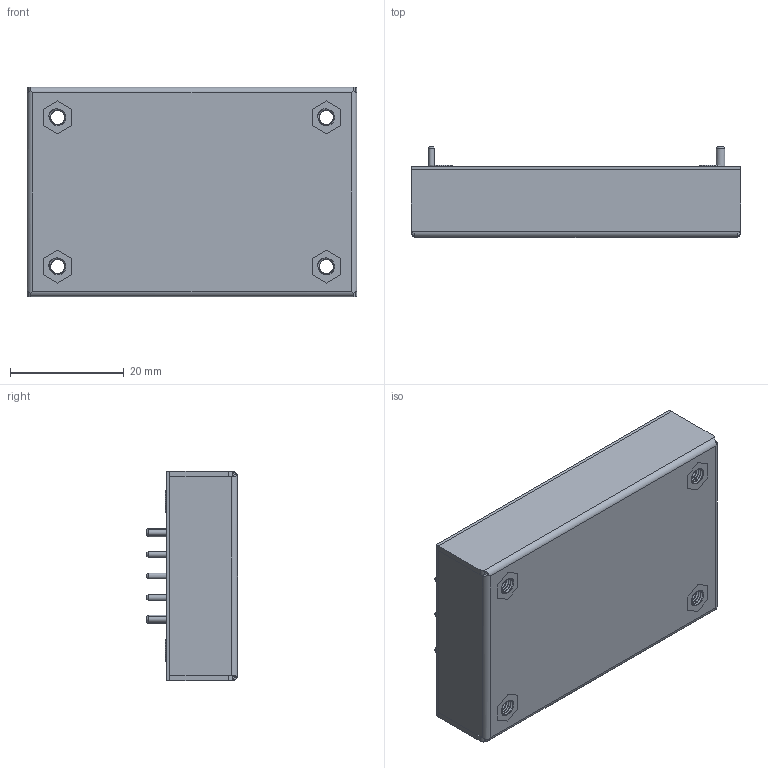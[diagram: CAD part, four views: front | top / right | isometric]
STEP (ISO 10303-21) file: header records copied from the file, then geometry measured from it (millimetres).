
FILE_DESCRIPTION (( 'STEP AP203' ), '1' );
FILE_NAME ('CQE50W 2024.08.26.STEP', '2024-08-27T03:37:07', ( '' ), ( '' ), 'SwSTEP 2.0', 'SolidWorks 2020', '' );
FILE_SCHEMA (( 'CONFIG_CONTROL_DESIGN' ));
Length unit declared in the file: millimetre
Products named in the file (1): CQE50W 2024.08.26
Bounding box: 57.9 x 16 x 36.8 mm (x, y, z)
Volume: 26393.2 mm3; surface area: 15822.5 mm2
Topology: 2 solids, 2 shells, 204 faces, 492 edges, 329 vertices
Faces by surface type: plane 125, cylinder 51, cone 16, bspline 12
Full cylindrical faces by diameter (mm): 1.02 x6, 1.3 x6, 1.5 x2, 1.9 x2, 3.8 x4, 4.3 x8
Entity records: 22712 total; most frequent: CARTESIAN_POINT 18288, ORIENTED_EDGE 860, DIRECTION 830, EDGE_CURVE 430, VERTEX_POINT 307, EDGE_LOOP 297, AXIS2_PLACEMENT_3D 293, VECTOR 244
